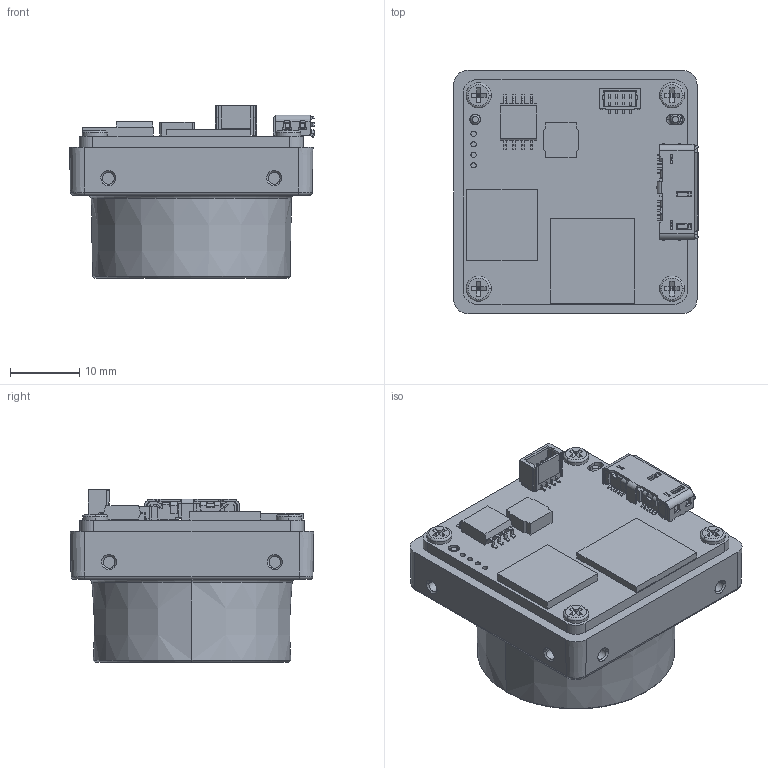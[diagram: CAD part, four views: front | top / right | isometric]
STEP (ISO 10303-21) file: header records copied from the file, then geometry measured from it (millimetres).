
FILE_DESCRIPTION((''),'2;1');
FILE_NAME('ASM0001_ASM222222','2021-12-08T12:37:20',('wangyijun6'),(''),'CREO PARAMETRIC BY PTC INC, 2017260','CREO PARAMETRIC BY PTC INC, 2017260','');
FILE_SCHEMA(('CONFIG_CONTROL_DESIGN'));
Length unit declared in the file: millimetre
Products named in the file (1): ASM0001_ASM222222
Bounding box: 35.44 x 35.24 x 25.03 mm (x, y, z)
Volume: 12360.4 mm3; surface area: 7634.4 mm2
Topology: 2 solids, 20 shells, 1855 faces, 5378 edges, 3474 vertices
Faces by surface type: plane 1105, cylinder 509, cone 123, torus 63, bspline 51, sphere 4
Entity records: 66672 total; most frequent: CARTESIAN_POINT 17225, ORIENTED_EDGE 10740, DIRECTION 9957, EDGE_CURVE 5378, VECTOR 3661, LINE 3661, VERTEX_POINT 3474, AXIS2_PLACEMENT_3D 3148
